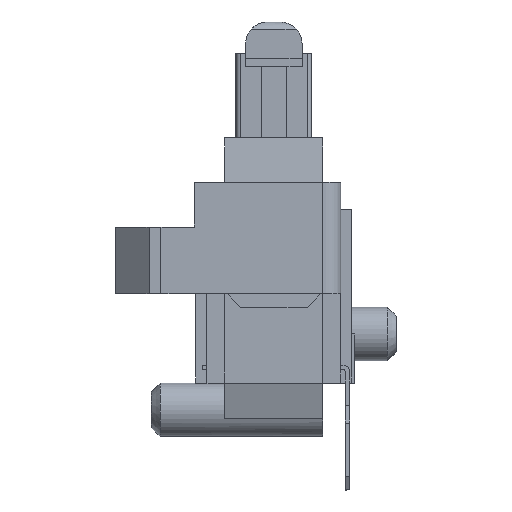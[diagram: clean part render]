
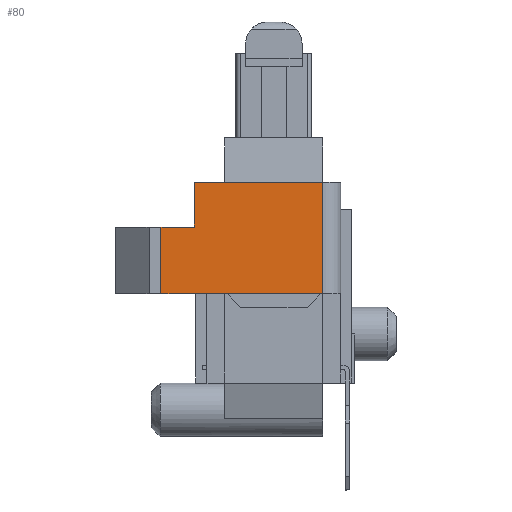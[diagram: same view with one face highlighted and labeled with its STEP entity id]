
A CAD part, left-side view. The second image highlights one B-rep face of the part: STEP entity #80.
In plain terms, the highlighted planar face has unit normal (-1, 0, 0).
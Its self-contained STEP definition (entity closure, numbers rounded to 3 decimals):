
#64 = EDGE_LOOP ( 'NONE', ( #4903, #4934, #4929, #73, #75, #4914 ) ) ;
#66 = VERTEX_POINT ( 'NONE', #6429 ) ;
#69 = EDGE_CURVE ( 'NONE', #87, #66, #6465, .T. ) ;
#70 = EDGE_CURVE ( 'NONE', #4915, #88, #6461, .T. ) ;
#72 = VERTEX_POINT ( 'NONE', #6473 ) ;
#73 = ORIENTED_EDGE ( 'NONE', *, *, #4905, .F. ) ;
#75 = ORIENTED_EDGE ( 'NONE', *, *, #70, .T. ) ;
#77 = VERTEX_POINT ( 'NONE', #6416 ) ;
#79 = EDGE_CURVE ( 'NONE', #77, #87, #6451, .T. ) ;
#80 = ADVANCED_FACE ( 'NONE', ( #6446 ), #3925, .T. ) ;
#87 = VERTEX_POINT ( 'NONE', #3911 ) ;
#88 = VERTEX_POINT ( 'NONE', #3920 ) ;
#3911 = CARTESIAN_POINT ( 'NONE',  ( -3.875, 0.55, 2.8 ) ) ;
#3920 = CARTESIAN_POINT ( 'NONE',  ( -3.875, 4.25, 4.3 ) ) ;
#3921 = DIRECTION ( 'NONE',  ( 0., 1., 0. ) ) ;
#3922 = DIRECTION ( 'NONE',  ( -1., 0., 0. ) ) ;
#3923 = CARTESIAN_POINT ( 'NONE',  ( -3.875, 0.15, 4.7 ) ) ;
#3924 = AXIS2_PLACEMENT_3D ( 'NONE', #3923, #3922, #3921 ) ;
#3925 = PLANE ( 'NONE',  #3924 ) ;
#4903 = ORIENTED_EDGE ( 'NONE', *, *, #79, .T. ) ;
#4905 = EDGE_CURVE ( 'NONE', #4915, #72, #7558, .T. ) ;
#4914 = ORIENTED_EDGE ( 'NONE', *, *, #4938, .T. ) ;
#4915 = VERTEX_POINT ( 'NONE', #5416 ) ;
#4929 = ORIENTED_EDGE ( 'NONE', *, *, #4935, .F. ) ;
#4934 = ORIENTED_EDGE ( 'NONE', *, *, #69, .T. ) ;
#4935 = EDGE_CURVE ( 'NONE', #72, #66, #7632, .T. ) ;
#4938 = EDGE_CURVE ( 'NONE', #88, #77, #7622, .T. ) ;
#5416 = CARTESIAN_POINT ( 'NONE',  ( -3.875, 3.43, 4.3 ) ) ;
#6416 = CARTESIAN_POINT ( 'NONE',  ( -3.875, 4.25, 2.8 ) ) ;
#6429 = CARTESIAN_POINT ( 'NONE',  ( -3.875, 0.55, 5.3 ) ) ;
#6444 = VECTOR ( 'NONE', #6449, 1000. ) ;
#6446 = FACE_OUTER_BOUND ( 'NONE', #64, .T. ) ;
#6449 = DIRECTION ( 'NONE',  ( 0., -1., 0. ) ) ;
#6450 = CARTESIAN_POINT ( 'NONE',  ( -3.875, 3.43, 2.8 ) ) ;
#6451 = LINE ( 'NONE', #6450, #6444 ) ;
#6458 = DIRECTION ( 'NONE',  ( 0., 1., 0. ) ) ;
#6459 = VECTOR ( 'NONE', #6458, 1000. ) ;
#6460 = CARTESIAN_POINT ( 'NONE',  ( -3.875, 4.2, 4.3 ) ) ;
#6461 = LINE ( 'NONE', #6460, #6459 ) ;
#6462 = DIRECTION ( 'NONE',  ( 0., 0., 1. ) ) ;
#6463 = VECTOR ( 'NONE', #6462, 1000. ) ;
#6464 = CARTESIAN_POINT ( 'NONE',  ( -3.875, 0.55, 4.7 ) ) ;
#6465 = LINE ( 'NONE', #6464, #6463 ) ;
#6473 = CARTESIAN_POINT ( 'NONE',  ( -3.875, 3.43, 5.3 ) ) ;
#7555 = DIRECTION ( 'NONE',  ( 0., 0., 1. ) ) ;
#7556 = VECTOR ( 'NONE', #7555, 1000. ) ;
#7557 = CARTESIAN_POINT ( 'NONE',  ( -3.875, 3.43, 4.7 ) ) ;
#7558 = LINE ( 'NONE', #7557, #7556 ) ;
#7619 = DIRECTION ( 'NONE',  ( 0., 0., -1. ) ) ;
#7620 = VECTOR ( 'NONE', #7619, 1000. ) ;
#7621 = CARTESIAN_POINT ( 'NONE',  ( -3.875, 4.25, 5.28 ) ) ;
#7622 = LINE ( 'NONE', #7621, #7620 ) ;
#7629 = DIRECTION ( 'NONE',  ( 0., -1., 0. ) ) ;
#7630 = VECTOR ( 'NONE', #7629, 1000. ) ;
#7631 = CARTESIAN_POINT ( 'NONE',  ( -3.875, 0.15, 5.3 ) ) ;
#7632 = LINE ( 'NONE', #7631, #7630 ) ;
